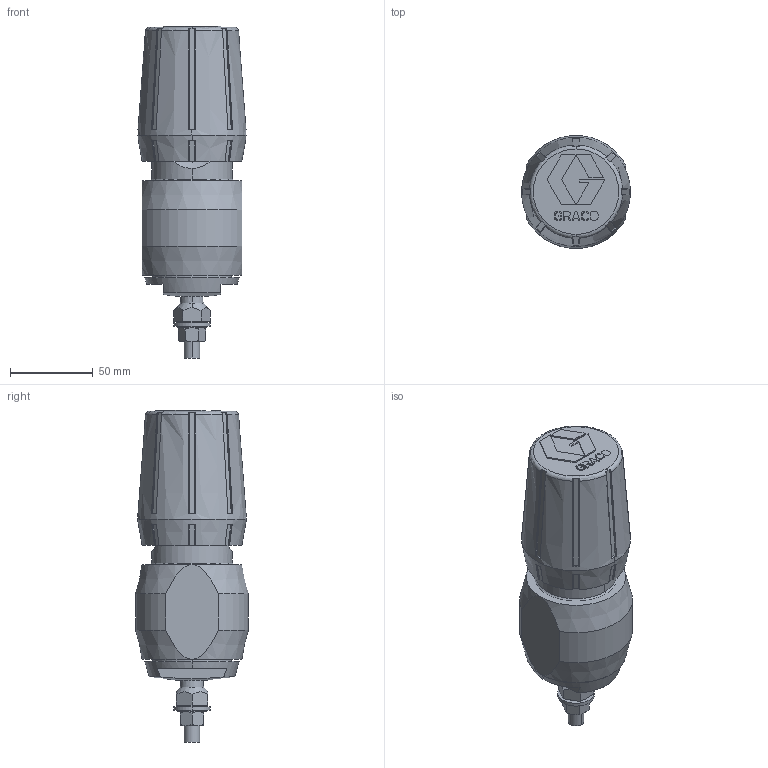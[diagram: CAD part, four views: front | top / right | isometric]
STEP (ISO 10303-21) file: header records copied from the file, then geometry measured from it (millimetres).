
FILE_DESCRIPTION((''),'2;1');
FILE_NAME('217576-EN-S_PRT','2023-11-07T14:29:22',('qtmwp1'),(''),'CREO PARAMETRIC BY PTC INC, 2021072','CREO PARAMETRIC BY PTC INC, 2021072','');
FILE_SCHEMA(('CONFIG_CONTROL_DESIGN'));
Length unit declared in the file: inch
Products named in the file (1): 217576-EN-S_PRT
Bounding box: 65.88 x 68.04 x 200.5 mm (x, y, z)
Surface area: 55480.9 mm2 (no closed solid volume)
Topology: 0 solids, 28 shells, 292 faces, 1042 edges, 747 vertices
Faces by surface type: plane 172, cylinder 82, cone 32, torus 6
Entity records: 11689 total; most frequent: CARTESIAN_POINT 3258, DIRECTION 1668, ORIENTED_EDGE 1560, EDGE_CURVE 1042, VERTEX_POINT 747, VECTOR 628, LINE 628, AXIS2_PLACEMENT_3D 520
